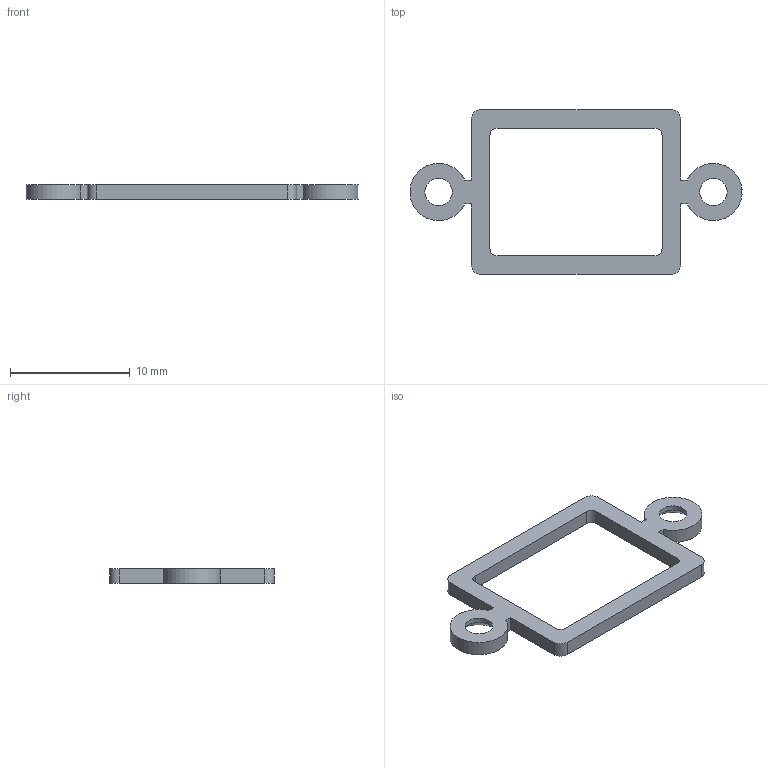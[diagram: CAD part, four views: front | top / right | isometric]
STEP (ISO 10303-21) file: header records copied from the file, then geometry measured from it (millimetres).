
FILE_DESCRIPTION(('Open CASCADE Model'),'2;1');
FILE_NAME('C27_UC1_Microphone_Removable_Keeper','2026-09-09T20:28:18',( 'Author'),('Open CASCADE'),'Open CASCADE STEP processor 7.9', 'build123d','Unknown');
FILE_SCHEMA(('AUTOMOTIVE_DESIGN { 1 0 10303 214 1 1 1 1 }'));
Length unit declared in the file: millimetre
Products named in the file (1): C27_UC1_Microphone_Removable_Keeper
Bounding box: 27.78 x 13.8 x 1.25 mm (x, y, z)
Volume: 140.1 mm3; surface area: 414.8 mm2
Topology: 1 solids, 1 shells, 30 faces, 82 edges, 54 vertices
Faces by surface type: plane 16, cylinder 12, cone 2
Full cylindrical faces by diameter (mm): 2.3 x2
Entity records: 2067 total; most frequent: CARTESIAN_POINT 389, DIRECTION 321, LINE 192, VECTOR 192, ORIENTED_EDGE 164, PCURVE 164, DEFINITIONAL_REPRESENTATION 164, EDGE_CURVE 82
